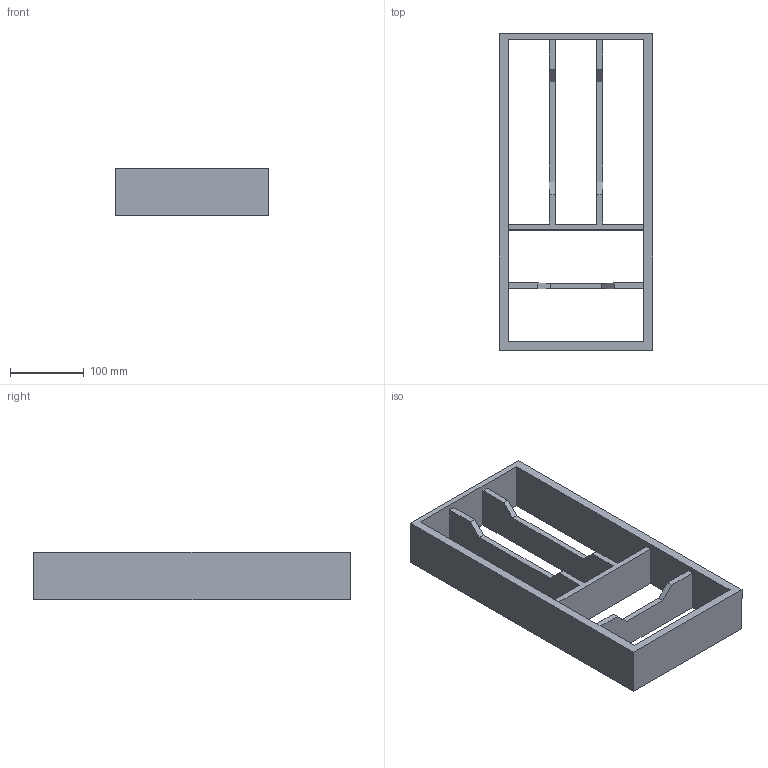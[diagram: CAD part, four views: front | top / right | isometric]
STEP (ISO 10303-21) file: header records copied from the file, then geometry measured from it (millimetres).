
FILE_DESCRIPTION (( 'STEP AP214' ), '1' );
FILE_NAME ('Vario Besteck fix NL450_B300_16mm_Buche.step', '2010-11-08T07:33:11', ( 'grass' ), ( '' ), 'SwSTEP 2.0', 'SolidWorks 2010', '' );
FILE_SCHEMA (( 'AUTOMOTIVE_DESIGN' ));
Length unit declared in the file: millimetre
Products named in the file (1): Vario Besteck fix NL450_B300_16mm_Buche
Bounding box: 208 x 429 x 65 mm (x, y, z)
Volume: 1238840 mm3; surface area: 283782 mm2
Topology: 1 solids, 1 shells, 34 faces, 108 edges, 72 vertices
Faces by surface type: plane 34
Entity records: 1226 total; most frequent: ORIENTED_EDGE 216, CARTESIAN_POINT 215, DIRECTION 178, EDGE_CURVE 108, LINE 108, VECTOR 108, VERTEX_POINT 72, EDGE_LOOP 40
